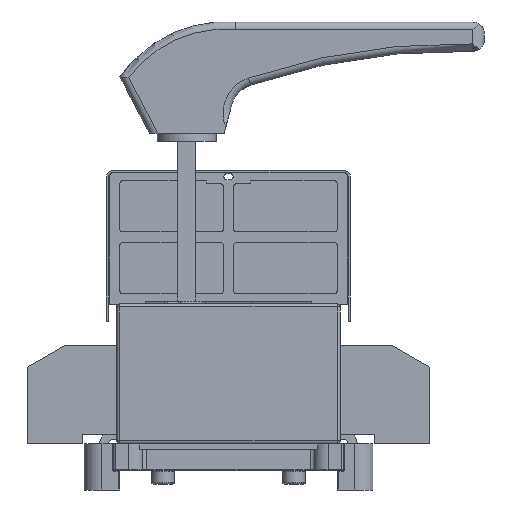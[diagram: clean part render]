
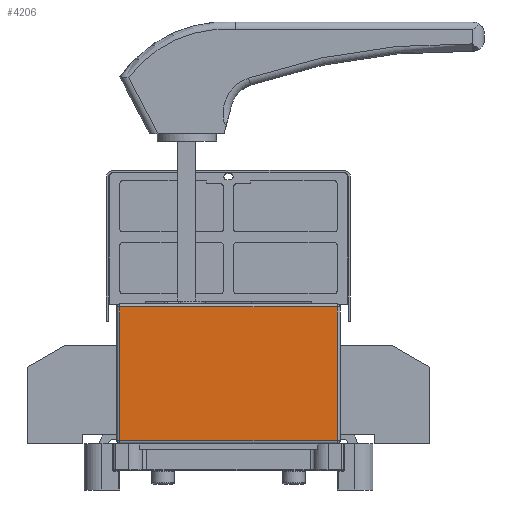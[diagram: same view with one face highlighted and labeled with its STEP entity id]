
A CAD part, left-side view. The second image highlights one B-rep face of the part: STEP entity #4206.
In plain terms, the highlighted planar face has unit normal (-1, 0, 0).
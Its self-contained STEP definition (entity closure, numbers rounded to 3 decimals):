
#4206=ADVANCED_FACE('',(#6855),#5290,.F.);
#5290=PLANE('',#35107);
#6855=FACE_OUTER_BOUND('',#8850,.T.);
#8850=EDGE_LOOP('',(#17035,#17036,#17037,#17038));
#17035=ORIENTED_EDGE('',*,*,#25702,.T.);
#17036=ORIENTED_EDGE('',*,*,#25684,.T.);
#17037=ORIENTED_EDGE('',*,*,#25695,.T.);
#17038=ORIENTED_EDGE('',*,*,#25673,.T.);
#21209=VERTEX_POINT('',#56593);
#21213=VERTEX_POINT('',#56604);
#21218=VERTEX_POINT('',#56621);
#21219=VERTEX_POINT('',#56625);
#25673=EDGE_CURVE('',#21213,#21209,#28959,.T.);
#25684=EDGE_CURVE('',#21219,#21218,#28964,.T.);
#25695=EDGE_CURVE('',#21218,#21213,#28967,.T.);
#25702=EDGE_CURVE('',#21209,#21219,#28974,.T.);
#28959=LINE('',#56607,#32187);
#28964=LINE('',#56628,#32192);
#28967=LINE('',#56651,#32195);
#28974=LINE('',#56661,#32202);
#32187=VECTOR('',#43815,1.);
#32192=VECTOR('',#43840,1.);
#32195=VECTOR('',#43869,1.);
#32202=VECTOR('',#43882,1.);
#35107=AXIS2_PLACEMENT_3D('',#56664,#43887,#43888);
#43815=DIRECTION('',(0.,1.,0.));
#43840=DIRECTION('',(0.,-1.,0.));
#43869=DIRECTION('',(0.,0.,1.));
#43882=DIRECTION('',(0.,0.,-1.));
#43887=DIRECTION('',(1.,0.,0.));
#43888=DIRECTION('',(0.,1.,0.));
#56593=CARTESIAN_POINT('',(-150.,73.,92.));
#56604=CARTESIAN_POINT('',(-150.,-73.,92.));
#56607=CARTESIAN_POINT('',(-150.,73.,92.));
#56621=CARTESIAN_POINT('',(-150.,-73.,2.));
#56625=CARTESIAN_POINT('',(-150.,73.,2.));
#56628=CARTESIAN_POINT('',(-150.,75.,2.));
#56651=CARTESIAN_POINT('',(-150.,-73.,94.));
#56661=CARTESIAN_POINT('',(-150.,73.,94.));
#56664=CARTESIAN_POINT('',(-150.,75.,94.));
